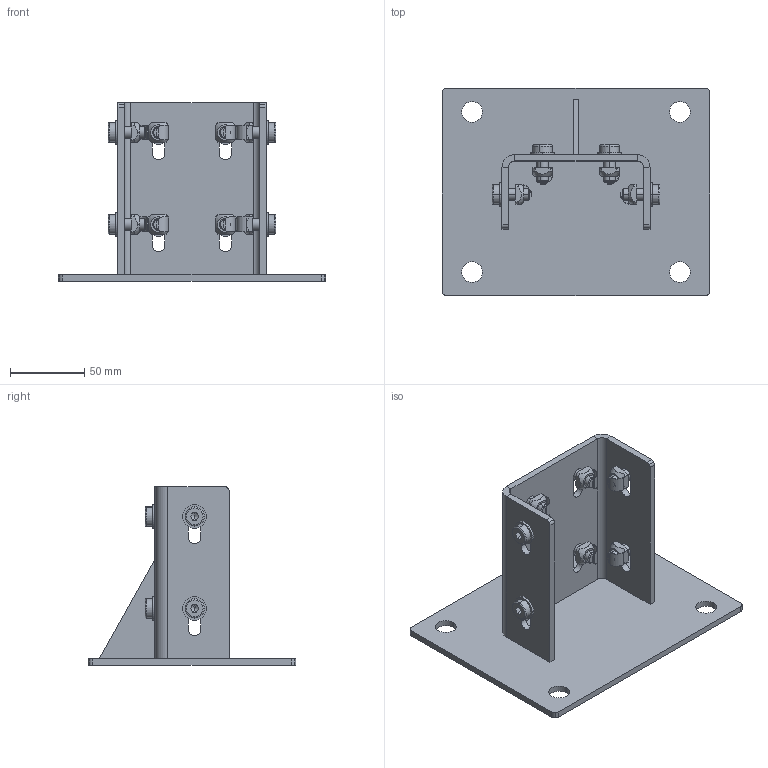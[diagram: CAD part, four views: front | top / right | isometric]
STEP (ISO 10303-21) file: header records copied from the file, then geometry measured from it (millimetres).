
FILE_DESCRIPTION (( 'STEP AP214' ), '1' );
FILE_NAME ('1.5042 Lattiakiinnike 45X90 C.STEP', '2025-09-16T10:49:59', ( '' ), ( '' ), 'SwSTEP 2.0', 'SolidWorks 2025', '' );
FILE_SCHEMA (( 'AUTOMOTIVE_DESIGN' ));
Length unit declared in the file: millimetre
Products named in the file (1): 1.5042 Lattiakiinnike 45X90 C
Bounding box: 180 x 140 x 120.3 mm (x, y, z)
Volume: 216958.2 mm3; surface area: 118601.3 mm2
Topology: 27 solids, 27 shells, 613 faces, 1469 edges, 910 vertices
Faces by surface type: plane 357, cylinder 152, cone 72, torus 32
Entity records: 25447 total; most frequent: CARTESIAN_POINT 4105, DIRECTION 3001, ORIENTED_EDGE 2906, EDGE_CURVE 1453, AXIS2_PLACEMENT_3D 1086, VERTEX_POINT 910, LINE 829, VECTOR 829
